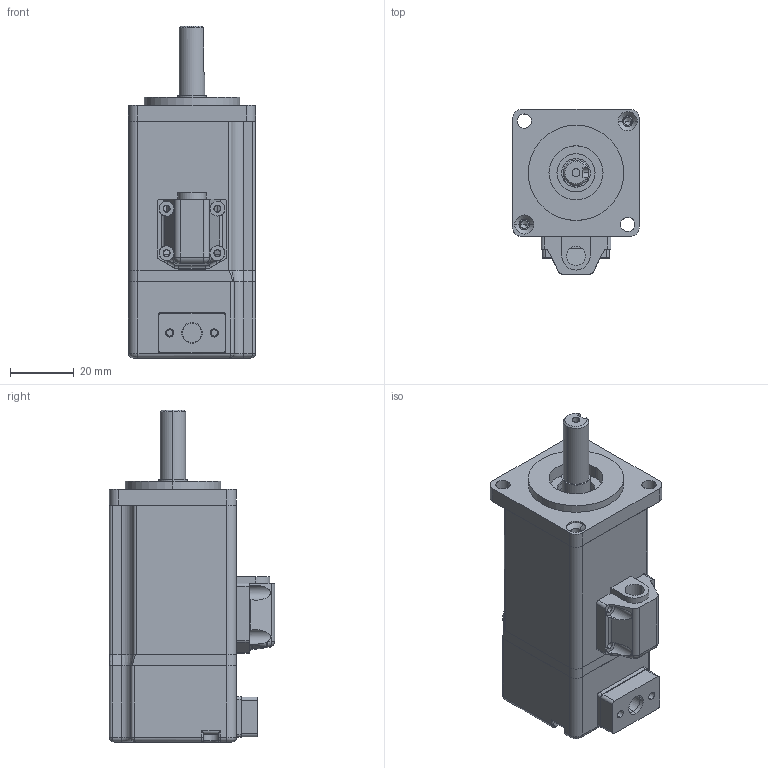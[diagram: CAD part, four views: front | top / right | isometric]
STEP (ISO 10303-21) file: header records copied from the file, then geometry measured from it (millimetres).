
FILE_DESCRIPTION (( 'STEP AP203' ), '1' );
FILE_NAME ('40-100W蚐猾籵蚚.STEP', '2024-01-23T01:43:19', ( '' ), ( '' ), 'SwSTEP 2.0', 'SolidWorks 2023', '' );
FILE_SCHEMA (( 'CONFIG_CONTROL_DESIGN' ));
Length unit declared in the file: millimetre
Products named in the file (10): ZDA.700.031.A; ZDA.900.005_40-密封垫; 40-100W油封通用; ZDC.900.079.A; ZDA.800.018.A; ZDC.900.080.A; ZDA.800.029.A; ZDA.900.006_40-引线盖板; ZDA.800.033.A; ZDA.800.031.A
Assembly tree (9 placements, depth 2):
  40-100W油封通用
    ZDA.800.018.A
    ZDA.800.029.A
    ZDA.800.033.A
    ZDA.900.005_40-密封垫
    ZDA.900.006_40-引线盖板
    ZDC.900.079.A
    ZDC.900.080.A
    ZDA.800.031.A
    ZDA.700.031.A
Bounding box: 40 x 52 x 104.5 mm (x, y, z)
Volume: 53979.8 mm3; surface area: 41673.1 mm2
Topology: 9 solids, 9 shells, 565 faces, 1479 edges, 940 vertices
Faces by surface type: cylinder 289, plane 192, cone 59, torus 13, bspline 8, sphere 4
Entity records: 19132 total; most frequent: CARTESIAN_POINT 3754, DIRECTION 3126, ORIENTED_EDGE 2930, EDGE_CURVE 1465, AXIS2_PLACEMENT_3D 1176, VERTEX_POINT 940, LINE 774, VECTOR 774
